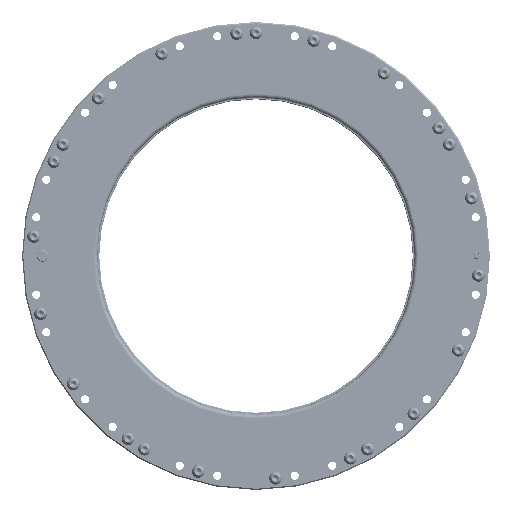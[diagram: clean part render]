
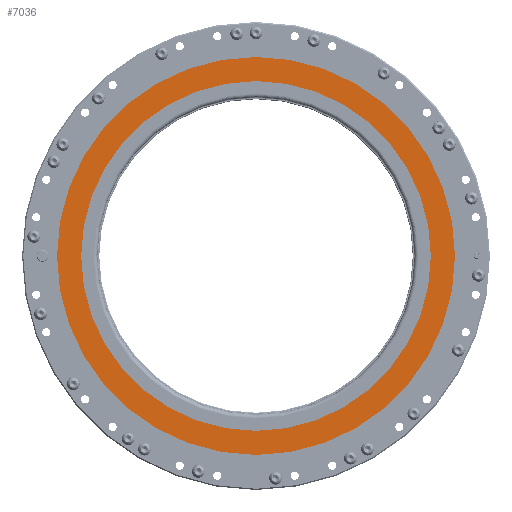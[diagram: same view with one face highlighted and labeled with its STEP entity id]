
A CAD part, top view. The second image highlights one B-rep face of the part: STEP entity #7036.
In plain terms, the highlighted planar face has unit normal (0, 0, 1) as drawn and (0, 0, -1) by its records, which use the part's own axes.
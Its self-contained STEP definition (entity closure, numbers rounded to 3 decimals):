
#488=PLANE('',#7579);
#727=CIRCLE('',#7580,145.);
#728=CIRCLE('',#7581,165.);
#1350=ORIENTED_EDGE('',*,*,#2313,.T.);
#1351=ORIENTED_EDGE('',*,*,#2314,.F.);
#2313=EDGE_CURVE('',#2857,#2857,#727,.T.);
#2314=EDGE_CURVE('',#2858,#2858,#728,.T.);
#2857=VERTEX_POINT('',#11017);
#2858=VERTEX_POINT('',#11019);
#3626=EDGE_LOOP('',(#1350));
#3627=EDGE_LOOP('',(#1351));
#4333=FACE_BOUND('',#3626,.T.);
#4334=FACE_BOUND('',#3627,.T.);
#7036=ADVANCED_FACE('',(#4333,#4334),#488,.F.);
#7579=AXIS2_PLACEMENT_3D('',#11015,#8679,#8680);
#7580=AXIS2_PLACEMENT_3D('',#11016,#8681,#8682);
#7581=AXIS2_PLACEMENT_3D('',#11018,#8683,#8684);
#8679=DIRECTION('',(0.,0.,1.));
#8680=DIRECTION('',(1.,0.,0.));
#8681=DIRECTION('',(0.,0.,1.));
#8682=DIRECTION('',(1.,0.,0.));
#8683=DIRECTION('',(0.,0.,1.));
#8684=DIRECTION('',(1.,0.,0.));
#11015=CARTESIAN_POINT('',(145.,0.,-10.5));
#11016=CARTESIAN_POINT('',(0.,0.,-10.5));
#11017=CARTESIAN_POINT('',(145.,0.,-10.5));
#11018=CARTESIAN_POINT('',(0.,0.,-10.5));
#11019=CARTESIAN_POINT('',(165.,0.,-10.5));
